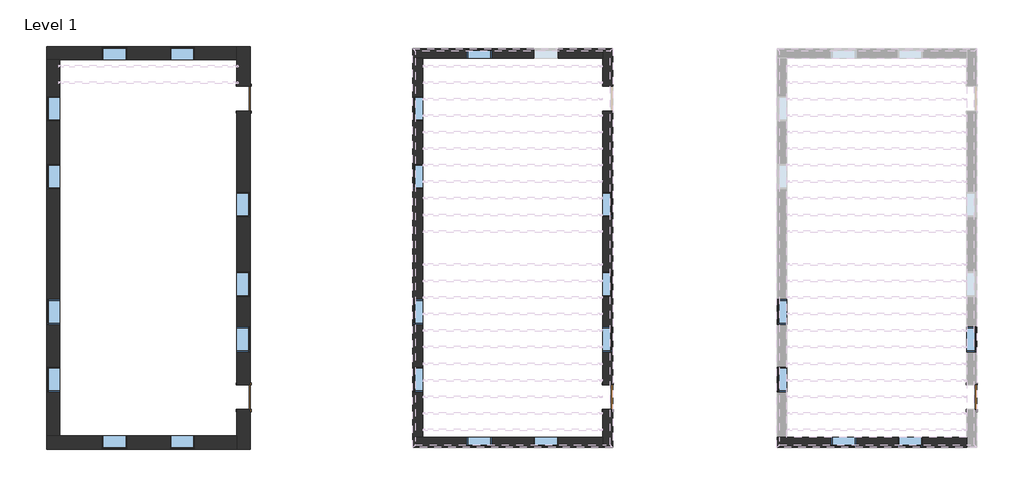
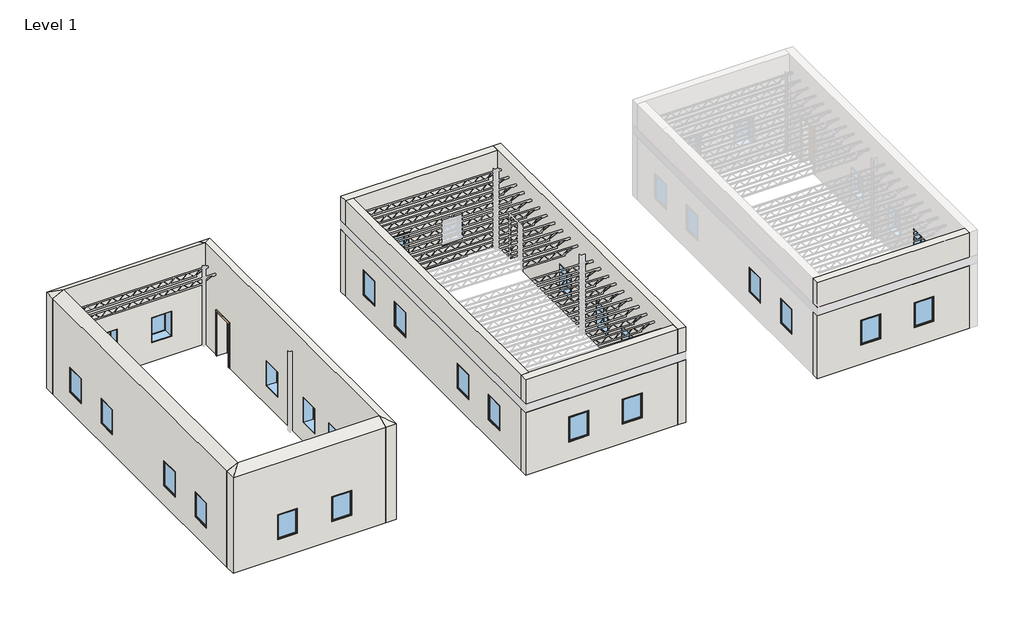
# One storey, part 1 of 3: 26 windows, 9 walls, 4 doors.
"""IFC4 building model written with IfcOpenShell, lengths in millimetres."""

from ifc_helpers import new_model, si_unit, origin, place, context, project, spatial, faceted_brep, transform, mapped, element, save
from components import door_647704b8, door_88aed75c, door_7d4dd929, window_a227ee85, window_0fe20cff, window_4cc3bb0a, window_eeedf783

model = new_model("IFC4")

# Units and contexts
model_context = context("Model", 3, world=origin())
ifc_project = project(units=[si_unit("LENGTHUNIT", "METRE", prefix="MILLI")], contexts=[model_context])

# Site, building, storey
site = spatial("IfcSite", under=ifc_project)
building = spatial("IfcBuilding", under=site)
storey = spatial("IfcBuildingStorey", under=building, Name="Level 1", Elevation=0.0)

# Doors
placement = place(None, origin())
door_shape = door_647704b8(model_context)
element("IfcDoor", 1, ObjectType="Single-Flush : 36\" x 84\"", at=placement, inside=storey, context=model_context, shape_type="MappedRepresentation", body=[
    mapped(door_shape, transform((18957.4805911, -2505.9398477, 0.0), x_axis=(0.0, -1.0, 0.0), y_axis=(1.0, 0.0, 0.0), z_axis=(0.0, 0.0, 1.0))),
])
element("IfcDoor", 2, ObjectType="Single-Flush : 36\" x 84\"", at=placement, inside=storey, context=model_context, shape_type="MappedRepresentation", body=[
    mapped(door_shape, transform((32368.6805911, -2505.9398477, 0.0), x_axis=(0.0, -1.0, 0.0), y_axis=(1.0, 0.0, 0.0), z_axis=(0.0, 0.0, 1.0))),
])
door_2_shape = door_88aed75c(model_context)
element("IfcDoor", 3, ObjectType="Single-Flush : 36\" x 84\"", at=placement, inside=storey, context=model_context, shape_type="MappedRepresentation", body=[
    mapped(door_2_shape, transform((5555.8055911, -2505.9398477, 0.0), x_axis=(0.0, -1.0, 0.0), y_axis=(1.0, 0.0, 0.0), z_axis=(0.0, 0.0, 1.0))),
])
door_3_shape = door_7d4dd929(model_context)
element("IfcDoor", 4, ObjectType="Single-Flush : 36\" x 84\"", at=placement, inside=storey, context=model_context, shape_type="MappedRepresentation", body=[
    mapped(door_3_shape, transform((5555.8055911, 8498.6101523, 0.0), x_axis=(0.0, 1.0, 0.0), y_axis=(-1.0, 0.0, 0.0), z_axis=(0.0, 0.0, 1.0))),
])

# Walls
element("IfcWall", 5, ObjectType="Exterior - Brick on CMU", at=placement, inside=storey, context=model_context, shape_type="Brep", body=[
    faceted_brep([(5803.4555911, 8955.8101523, 2133.6), (5803.4555911, 8955.8101523, 0.0), (5803.4555911, 10419.4851523, 0.0), (5803.4555911, 10419.4851523, 4650.0), (5803.4555911, -4426.8148477, 4650.0), (5803.4555911, -4426.8148477, 0.0), (5803.4555911, -2963.1398477, 0.0), (5803.4555911, -2963.1398477, 2133.6), (5803.4555911, -2048.7398477, 2133.6), (5803.4555911, -2048.7398477, 0.0), (5803.4555911, 8041.4101523, 0.0), (5803.4555911, 8041.4101523, 2133.6), (5803.4555911, 1202.4601523, 2133.6), (5803.4555911, 2116.8601523, 2133.6), (5803.4555911, 2116.8601523, 914.4), (5803.4555911, 1202.4601523, 914.4), (5803.4555911, -829.5398477, 2133.6), (5803.4555911, 84.8601523, 2133.6), (5803.4555911, 84.8601523, 914.4), (5803.4555911, -829.5398477, 914.4), (5803.4555911, 4139.3351523, 2133.6), (5803.4555911, 5053.7351523, 2133.6), (5803.4555911, 5053.7351523, 914.4), (5803.4555911, 4139.3351523, 914.4), (5308.1555911, 10419.4851523, 0.0), (5308.1555911, 9924.1851523, 0.0), (5308.1555911, 8955.8101523, 0.0), (5308.1555911, 8955.8101523, 2133.6), (5308.1555911, 8041.4101523, 2133.6), (5308.1555911, 8041.4101523, 0.0), (5308.1555911, -2048.7398477, 0.0), (5308.1555911, -2048.7398477, 2133.6), (5308.1555911, -2963.1398477, 2133.6), (5308.1555911, -2963.1398477, 0.0), (5308.1555911, -3931.5148477, 0.0), (5308.1555911, -4426.8148477, 0.0), (5308.1555911, -4426.8148477, 4650.0), (5308.1555911, -3931.5148477, 4897.65), (5308.1555911, 9924.1851523, 4897.65), (5308.1555911, 10419.4851523, 4650.0), (5308.1555911, 1202.4601523, 2133.6), (5308.1555911, 1202.4601523, 914.4), (5308.1555911, 2116.8601523, 914.4), (5308.1555911, 2116.8601523, 2133.6), (5308.1555911, -829.5398477, 2133.6), (5308.1555911, -829.5398477, 914.4), (5308.1555911, 84.8601523, 914.4), (5308.1555911, 84.8601523, 2133.6), (5308.1555911, 4139.3351523, 2133.6), (5308.1555911, 4139.3351523, 914.4), (5308.1555911, 5053.7351523, 914.4), (5308.1555911, 5053.7351523, 2133.6)], [[[0, 1, 2, 3, 4, 5, 6, 7, 8, 9, 10, 11], [12, 13, 14, 15], [16, 17, 18, 19], [20, 21, 22, 23]], [[24, 25, 26, 27, 28, 29, 30, 31, 32, 33, 34, 35, 36, 37, 38, 39], [40, 41, 42, 43], [44, 45, 46, 47], [48, 49, 50, 51]], [[35, 34, 33, 6, 5]], [[2, 1, 26, 25, 24]], [[10, 9, 30, 29]], [[3, 2, 24, 39]], [[5, 4, 36, 35]], [[4, 3, 38, 37]], [[3, 39, 38]], [[37, 36, 4]], [[7, 6, 33, 32]], [[8, 7, 32, 31]], [[9, 8, 31, 30]], [[27, 26, 1, 0]], [[28, 27, 0, 11]], [[29, 28, 11, 10]], [[41, 40, 12, 15]], [[42, 41, 15, 14]], [[43, 42, 14, 13]], [[40, 43, 13, 12]], [[45, 44, 16, 19]], [[46, 45, 19, 18]], [[47, 46, 18, 17]], [[44, 47, 17, 16]], [[49, 48, 20, 23]], [[50, 49, 23, 22]], [[51, 50, 22, 21]], [[48, 51, 21, 20]]]),
])
element("IfcWall", 6, ObjectType="Exterior - Brick on CMU", at=placement, inside=storey, context=model_context, shape_type="Brep", body=[
    faceted_brep([(5308.1555911, 10419.4851523, 0.0), (-1702.2444089, 10419.4851523, 0.0), (-1702.2444089, 10419.4851523, 4650.0), (5308.1555911, 10419.4851523, 4650.0), (2844.3555911, 10419.4851523, 2133.6), (2844.3555911, 10419.4851523, 914.4), (3758.7555911, 10419.4851523, 914.4), (3758.7555911, 10419.4851523, 2133.6), (342.4555911, 10419.4851523, 2133.6), (342.4555911, 10419.4851523, 914.4), (1256.8555911, 10419.4851523, 914.4), (1256.8555911, 10419.4851523, 2133.6), (5308.1555911, 9924.1851523, 0.0), (5308.1555911, 9924.1851523, 4897.65), (-1206.9444089, 9924.1851523, 4897.65), (-1702.2444089, 9924.1851523, 4650.0), (-1702.2444089, 9924.1851523, 0.0), (-1206.9444089, 9924.1851523, 0.0), (2844.3555911, 9924.1851523, 2133.6), (3758.7555911, 9924.1851523, 2133.6), (3758.7555911, 9924.1851523, 914.4), (2844.3555911, 9924.1851523, 914.4), (342.4555911, 9924.1851523, 2133.6), (1256.8555911, 9924.1851523, 2133.6), (1256.8555911, 9924.1851523, 914.4), (342.4555911, 9924.1851523, 914.4)], [[[0, 1, 2, 3], [4, 5, 6, 7], [8, 9, 10, 11]], [[12, 13, 14, 15, 16, 17], [18, 19, 20, 21], [22, 23, 24, 25]], [[1, 0, 12, 17, 16]], [[2, 1, 16, 15]], [[0, 3, 13, 12]], [[3, 2, 14, 13]], [[2, 15, 14]], [[5, 4, 18, 21]], [[6, 5, 21, 20]], [[7, 6, 20, 19]], [[4, 7, 19, 18]], [[9, 8, 22, 25]], [[10, 9, 25, 24]], [[11, 10, 24, 23]], [[8, 11, 23, 22]]]),
])
element("IfcWall", 7, ObjectType="Exterior - Brick on CMU", at=placement, inside=storey, context=model_context, shape_type="Brep", body=[
    faceted_brep([(5308.1555911, -3931.5148477, 0.0), (-1206.9444089, -3931.5148477, 0.0), (-1702.2444089, -3931.5148477, 0.0), (-1702.2444089, -3931.5148477, 4650.0), (-1206.9444089, -3931.5148477, 4897.65), (5308.1555911, -3931.5148477, 4897.65), (2844.3555911, -3931.5148477, 2133.6), (2844.3555911, -3931.5148477, 914.4), (3758.7555911, -3931.5148477, 914.4), (3758.7555911, -3931.5148477, 2133.6), (342.4555911, -3931.5148477, 2133.6), (342.4555911, -3931.5148477, 914.4), (1256.8555911, -3931.5148477, 914.4), (1256.8555911, -3931.5148477, 2133.6), (5308.1555911, -4426.8148477, 0.0), (5308.1555911, -4426.8148477, 4650.0), (-1702.2444089, -4426.8148477, 4650.0), (-1702.2444089, -4426.8148477, 0.0), (2844.3555911, -4426.8148477, 2133.6), (3758.7555911, -4426.8148477, 2133.6), (3758.7555911, -4426.8148477, 914.4), (2844.3555911, -4426.8148477, 914.4), (342.4555911, -4426.8148477, 2133.6), (1256.8555911, -4426.8148477, 2133.6), (1256.8555911, -4426.8148477, 914.4), (342.4555911, -4426.8148477, 914.4)], [[[0, 1, 2, 3, 4, 5], [6, 7, 8, 9], [10, 11, 12, 13]], [[14, 15, 16, 17], [18, 19, 20, 21], [22, 23, 24, 25]], [[2, 1, 0, 14, 17]], [[3, 2, 17, 16]], [[0, 5, 15, 14]], [[5, 4, 16, 15]], [[4, 3, 16]], [[7, 6, 18, 21]], [[8, 7, 21, 20]], [[9, 8, 20, 19]], [[6, 9, 19, 18]], [[11, 10, 22, 25]], [[12, 11, 25, 24]], [[13, 12, 24, 23]], [[10, 13, 23, 22]]]),
])
element("IfcWall", 8, ObjectType="Exterior - Brick on CMU", at=placement, inside=storey, context=model_context, shape_type="Brep", body=[
    faceted_brep([(-1206.9444089, -3931.5148477, 0.0), (-1206.9444089, 9924.1851523, 0.0), (-1206.9444089, 9924.1851523, 4897.65), (-1206.9444089, -3931.5148477, 4897.65), (-1206.9444089, 1095.5684857, 2133.6), (-1206.9444089, 1095.5684857, 914.4), (-1206.9444089, 181.1684857, 914.4), (-1206.9444089, 181.1684857, 2133.6), (-1206.9444089, 6084.551819, 2133.6), (-1206.9444089, 6084.551819, 914.4), (-1206.9444089, 5170.151819, 914.4), (-1206.9444089, 5170.151819, 2133.6), (-1206.9444089, 8579.0434857, 2133.6), (-1206.9444089, 8579.0434857, 914.4), (-1206.9444089, 7664.6434857, 914.4), (-1206.9444089, 7664.6434857, 2133.6), (-1206.9444089, -1398.923181, 2133.6), (-1206.9444089, -1398.923181, 914.4), (-1206.9444089, -2313.323181, 914.4), (-1206.9444089, -2313.323181, 2133.6), (-1702.2444089, -3931.5148477, 0.0), (-1702.2444089, -3931.5148477, 4650.0), (-1702.2444089, 9924.1851523, 4650.0), (-1702.2444089, 9924.1851523, 0.0), (-1702.2444089, 1095.5684857, 2133.6), (-1702.2444089, 181.1684857, 2133.6), (-1702.2444089, 181.1684857, 914.4), (-1702.2444089, 1095.5684857, 914.4), (-1702.2444089, 6084.551819, 2133.6), (-1702.2444089, 5170.151819, 2133.6), (-1702.2444089, 5170.151819, 914.4), (-1702.2444089, 6084.551819, 914.4), (-1702.2444089, 8579.0434857, 2133.6), (-1702.2444089, 7664.6434857, 2133.6), (-1702.2444089, 7664.6434857, 914.4), (-1702.2444089, 8579.0434857, 914.4), (-1702.2444089, -1398.923181, 2133.6), (-1702.2444089, -2313.323181, 2133.6), (-1702.2444089, -2313.323181, 914.4), (-1702.2444089, -1398.923181, 914.4)], [[[0, 1, 2, 3], [4, 5, 6, 7], [8, 9, 10, 11], [12, 13, 14, 15], [16, 17, 18, 19]], [[20, 21, 22, 23], [24, 25, 26, 27], [28, 29, 30, 31], [32, 33, 34, 35], [36, 37, 38, 39]], [[1, 0, 20, 23]], [[2, 1, 23, 22]], [[0, 3, 21, 20]], [[3, 2, 22, 21]], [[5, 4, 24, 27]], [[6, 5, 27, 26]], [[7, 6, 26, 25]], [[4, 7, 25, 24]], [[9, 8, 28, 31]], [[10, 9, 31, 30]], [[11, 10, 30, 29]], [[8, 11, 29, 28]], [[13, 12, 32, 35]], [[14, 13, 35, 34]], [[15, 14, 34, 33]], [[12, 15, 33, 32]], [[17, 16, 36, 39]], [[18, 17, 39, 38]], [[19, 18, 38, 37]], [[16, 19, 37, 36]]]),
])
element("IfcWall", 9, ObjectType="LDC Exterior - Brick on CMU", at=placement, inside=storey, context=model_context, shape_type="Brep", body=[
    faceted_brep([(19138.4555911, 10343.2851523, 4650.0), (19138.4555911, -4350.6148477, 4650.0), (19138.4555911, -4350.6148477, 3454.4), (19138.4555911, 10343.2851523, 3454.4), (19138.4555911, -2963.1398477, 0.0), (19138.4555911, -2963.1398477, 2133.6), (19138.4555911, -2048.7398477, 2133.6), (19138.4555911, -2048.7398477, 0.0), (19138.4555911, 8041.4101523, 0.0), (19138.4555911, 8041.4101523, 2133.6), (19138.4555911, 8955.8101523, 2133.6), (19138.4555911, 8955.8101523, 0.0), (19138.4555911, 10343.2851523, 0.0), (19138.4555911, 10343.2851523, 3048.0), (19138.4555911, -4350.6148477, 3048.0), (19138.4555911, -4350.6148477, 0.0), (19138.4555911, 1202.4601523, 914.4), (19138.4555911, 1202.4601523, 2133.6), (19138.4555911, 2116.8601523, 2133.6), (19138.4555911, 2116.8601523, 914.4), (19138.4555911, -829.5398477, 914.4), (19138.4555911, -829.5398477, 2133.6), (19138.4555911, 84.8601523, 2133.6), (19138.4555911, 84.8601523, 914.4), (19138.4555911, 4139.3351523, 914.4), (19138.4555911, 4139.3351523, 2133.6), (19138.4555911, 5053.7351523, 2133.6), (19138.4555911, 5053.7351523, 914.4), (18776.5055911, -4350.6148477, 4650.0), (18776.5055911, -3988.6648477, 4650.0), (18776.5055911, 9981.3351523, 4650.0), (18776.5055911, 10343.2851523, 4650.0), (18776.5055911, 10343.2851523, 3454.4), (18776.5055911, 10254.3851523, 3454.4), (18776.5055911, 10254.3851523, 3048.0), (18776.5055911, 10343.2851523, 3048.0), (18776.5055911, 10343.2851523, 0.0), (18776.5055911, 9981.3351523, 0.0), (18776.5055911, 8955.8101523, 0.0), (18776.5055911, 8955.8101523, 2133.6), (18776.5055911, 8041.4101523, 2133.6), (18776.5055911, 8041.4101523, 0.0), (18776.5055911, -2048.7398477, 0.0), (18776.5055911, -2048.7398477, 2133.6), (18776.5055911, -2963.1398477, 2133.6), (18776.5055911, -2963.1398477, 0.0), (18776.5055911, -3988.6648477, 0.0), (18776.5055911, -4350.6148477, 0.0), (18776.5055911, -4350.6148477, 3048.0), (18776.5055911, -4261.7148477, 3048.0), (18776.5055911, -4261.7148477, 3454.4), (18776.5055911, -4350.6148477, 3454.4), (18776.5055911, 1202.4601523, 2133.6), (18776.5055911, 1202.4601523, 914.4), (18776.5055911, 2116.8601523, 914.4), (18776.5055911, 2116.8601523, 2133.6), (18776.5055911, -829.5398477, 2133.6), (18776.5055911, -829.5398477, 914.4), (18776.5055911, 84.8601523, 914.4), (18776.5055911, 84.8601523, 2133.6), (18776.5055911, 4139.3351523, 2133.6), (18776.5055911, 4139.3351523, 914.4), (18776.5055911, 5053.7351523, 914.4), (18776.5055911, 5053.7351523, 2133.6), (19049.5555911, -4261.7148477, 3454.4), (19049.5555911, 10254.3851523, 3454.4), (19049.5555911, -4261.7148477, 3048.0), (19049.5555911, 10254.3851523, 3048.0)], [[[0, 1, 2, 3]], [[4, 5, 6, 7, 8, 9, 10, 11, 12, 13, 14, 15], [16, 17, 18, 19], [20, 21, 22, 23], [24, 25, 26, 27]], [[28, 29, 30, 31, 32, 33, 34, 35, 36, 37, 38, 39, 40, 41, 42, 43, 44, 45, 46, 47, 48, 49, 50, 51], [52, 53, 54, 55], [56, 57, 58, 59], [60, 61, 62, 63]], [[36, 12, 11, 38, 37]], [[15, 47, 46, 45, 4]], [[7, 42, 41, 8]], [[1, 0, 31, 30, 29, 28]], [[12, 36, 35, 13]], [[31, 0, 3, 32]], [[1, 28, 51, 2]], [[47, 15, 14, 48]], [[5, 4, 45, 44]], [[6, 5, 44, 43]], [[7, 6, 43, 42]], [[39, 38, 11, 10]], [[40, 39, 10, 9]], [[41, 40, 9, 8]], [[53, 52, 17, 16]], [[54, 53, 16, 19]], [[55, 54, 19, 18]], [[52, 55, 18, 17]], [[57, 56, 21, 20]], [[58, 57, 20, 23]], [[59, 58, 23, 22]], [[56, 59, 22, 21]], [[61, 60, 25, 24]], [[62, 61, 24, 27]], [[63, 62, 27, 26]], [[60, 63, 26, 25]], [[64, 65, 33, 32, 3, 2, 51, 50]], [[66, 64, 50, 49]], [[67, 66, 49, 48, 14, 13, 35, 34]], [[65, 64, 66, 67]], [[65, 67, 34, 33]]]),
])
element("IfcWall", 10, ObjectType="LDC Exterior - Brick on CMU", at=placement, inside=storey, context=model_context, shape_type="Brep", body=[
    faceted_brep([(18776.5055911, 10343.2851523, 0.0), (11785.1555911, 10343.2851523, 0.0), (11785.1555911, 10343.2851523, 3048.0), (18776.5055911, 10343.2851523, 3048.0), (16230.1555911, 10343.2851523, 2133.6), (16230.1555911, 10343.2851523, 914.4), (17144.5555911, 10343.2851523, 914.4), (17144.5555911, 10343.2851523, 2133.6), (13779.0555911, 10343.2851523, 2133.6), (13779.0555911, 10343.2851523, 914.4), (14693.4555911, 10343.2851523, 914.4), (14693.4555911, 10343.2851523, 2133.6), (11785.1555911, 10343.2851523, 4650.0), (18776.5055911, 10343.2851523, 4650.0), (18776.5055911, 10343.2851523, 3454.4), (11785.1555911, 10343.2851523, 3454.4), (11785.1555911, 9981.3351523, 0.0), (12147.1055911, 9981.3351523, 0.0), (18776.5055911, 9981.3351523, 0.0), (18776.5055911, 9981.3351523, 4650.0), (12147.1055911, 9981.3351523, 4650.0), (11785.1555911, 9981.3351523, 4650.0), (11785.1555911, 9981.3351523, 3454.4), (11874.0555911, 9981.3351523, 3454.4), (11874.0555911, 9981.3351523, 3048.0), (11785.1555911, 9981.3351523, 3048.0), (16230.1555911, 9981.3351523, 914.4), (16230.1555911, 9981.3351523, 2133.6), (17144.5555911, 9981.3351523, 2133.6), (17144.5555911, 9981.3351523, 914.4), (13779.0555911, 9981.3351523, 914.4), (13779.0555911, 9981.3351523, 2133.6), (14693.4555911, 9981.3351523, 2133.6), (14693.4555911, 9981.3351523, 914.4), (18776.5055911, 10254.3851523, 3048.0), (18776.5055911, 10254.3851523, 3454.4), (11874.0555911, 10254.3851523, 3454.4), (11874.0555911, 10254.3851523, 3048.0)], [[[0, 1, 2, 3], [4, 5, 6, 7], [8, 9, 10, 11]], [[12, 13, 14, 15]], [[16, 17, 18, 19, 20, 21, 22, 23, 24, 25], [26, 27, 28, 29], [30, 31, 32, 33]], [[1, 0, 18, 17, 16]], [[13, 12, 21, 20, 19]], [[1, 16, 25, 2]], [[21, 12, 15, 22]], [[13, 19, 18, 0, 3, 34, 35, 14]], [[5, 4, 27, 26]], [[6, 5, 26, 29]], [[7, 6, 29, 28]], [[4, 7, 28, 27]], [[9, 8, 31, 30]], [[10, 9, 30, 33]], [[11, 10, 33, 32]], [[8, 11, 32, 31]], [[35, 36, 23, 22, 15, 14]], [[24, 37, 34, 3, 2, 25]], [[37, 36, 35, 34]], [[36, 37, 24, 23]]]),
])
element("IfcWall", 11, ObjectType="LDC Exterior - Brick on CMU", at=placement, inside=storey, context=model_context, shape_type="Brep", body=[
    faceted_brep([(18776.5055911, -3988.6648477, 0.0), (12147.1055911, -3988.6648477, 0.0), (11785.1555911, -3988.6648477, 0.0), (11785.1555911, -3988.6648477, 3048.0), (11874.0555911, -3988.6648477, 3048.0), (11874.0555911, -3988.6648477, 3454.4), (11785.1555911, -3988.6648477, 3454.4), (11785.1555911, -3988.6648477, 4650.0), (12147.1055911, -3988.6648477, 4650.0), (18776.5055911, -3988.6648477, 4650.0), (16230.1555911, -3988.6648477, 2133.6), (16230.1555911, -3988.6648477, 914.4), (17144.5555911, -3988.6648477, 914.4), (17144.5555911, -3988.6648477, 2133.6), (13779.0555911, -3988.6648477, 2133.6), (13779.0555911, -3988.6648477, 914.4), (14693.4555911, -3988.6648477, 914.4), (14693.4555911, -3988.6648477, 2133.6), (11785.1555911, -4350.6148477, 0.0), (18776.5055911, -4350.6148477, 0.0), (18776.5055911, -4350.6148477, 3048.0), (11785.1555911, -4350.6148477, 3048.0), (16230.1555911, -4350.6148477, 914.4), (16230.1555911, -4350.6148477, 2133.6), (17144.5555911, -4350.6148477, 2133.6), (17144.5555911, -4350.6148477, 914.4), (13779.0555911, -4350.6148477, 914.4), (13779.0555911, -4350.6148477, 2133.6), (14693.4555911, -4350.6148477, 2133.6), (14693.4555911, -4350.6148477, 914.4), (18776.5055911, -4350.6148477, 4650.0), (11785.1555911, -4350.6148477, 4650.0), (11785.1555911, -4350.6148477, 3454.4), (18776.5055911, -4350.6148477, 3454.4), (18776.5055911, -4261.7148477, 3454.4), (18776.5055911, -4261.7148477, 3048.0), (11874.0555911, -4261.7148477, 3048.0), (11874.0555911, -4261.7148477, 3454.4)], [[[0, 1, 2, 3, 4, 5, 6, 7, 8, 9], [10, 11, 12, 13], [14, 15, 16, 17]], [[18, 19, 20, 21], [22, 23, 24, 25], [26, 27, 28, 29]], [[30, 31, 32, 33]], [[2, 1, 0, 19, 18]], [[9, 8, 7, 31, 30]], [[2, 18, 21, 3]], [[31, 7, 6, 32]], [[0, 9, 30, 33, 34, 35, 20, 19]], [[11, 10, 23, 22]], [[12, 11, 22, 25]], [[13, 12, 25, 24]], [[10, 13, 24, 23]], [[15, 14, 27, 26]], [[16, 15, 26, 29]], [[17, 16, 29, 28]], [[14, 17, 28, 27]], [[35, 36, 4, 3, 21, 20]], [[5, 37, 34, 33, 32, 6]], [[37, 36, 35, 34]], [[36, 37, 5, 4]]]),
])
element("IfcWall", 12, ObjectType="LDC Exterior - Brick on CMU", at=placement, inside=storey, context=model_context, shape_type="Brep", body=[
    faceted_brep([(12147.1055911, -3988.6648477, 0.0), (12147.1055911, 9981.3351523, 0.0), (12147.1055911, 9981.3351523, 4650.0), (12147.1055911, -3988.6648477, 4650.0), (12147.1055911, 1095.5684857, 2133.6), (12147.1055911, 1095.5684857, 914.4), (12147.1055911, 181.1684857, 914.4), (12147.1055911, 181.1684857, 2133.6), (12147.1055911, 6084.551819, 2133.6), (12147.1055911, 6084.551819, 914.4), (12147.1055911, 5170.151819, 914.4), (12147.1055911, 5170.151819, 2133.6), (12147.1055911, 8579.0434857, 2133.6), (12147.1055911, 8579.0434857, 914.4), (12147.1055911, 7664.6434857, 914.4), (12147.1055911, 7664.6434857, 2133.6), (12147.1055911, -1398.923181, 2133.6), (12147.1055911, -1398.923181, 914.4), (12147.1055911, -2313.323181, 914.4), (12147.1055911, -2313.323181, 2133.6), (11785.1555911, 9981.3351523, 0.0), (11785.1555911, -3988.6648477, 0.0), (11785.1555911, -3988.6648477, 3048.0), (11785.1555911, 9981.3351523, 3048.0), (11785.1555911, 1095.5684857, 914.4), (11785.1555911, 1095.5684857, 2133.6), (11785.1555911, 181.1684857, 2133.6), (11785.1555911, 181.1684857, 914.4), (11785.1555911, 6084.551819, 914.4), (11785.1555911, 6084.551819, 2133.6), (11785.1555911, 5170.151819, 2133.6), (11785.1555911, 5170.151819, 914.4), (11785.1555911, 8579.0434857, 914.4), (11785.1555911, 8579.0434857, 2133.6), (11785.1555911, 7664.6434857, 2133.6), (11785.1555911, 7664.6434857, 914.4), (11785.1555911, -1398.923181, 914.4), (11785.1555911, -1398.923181, 2133.6), (11785.1555911, -2313.323181, 2133.6), (11785.1555911, -2313.323181, 914.4), (11785.1555911, -3988.6648477, 4650.0), (11785.1555911, 9981.3351523, 4650.0), (11785.1555911, 9981.3351523, 3454.4), (11785.1555911, -3988.6648477, 3454.4), (11874.0555911, 9981.3351523, 3048.0), (11874.0555911, 9981.3351523, 3454.4), (11874.0555911, -3988.6648477, 3454.4), (11874.0555911, -3988.6648477, 3048.0)], [[[0, 1, 2, 3], [4, 5, 6, 7], [8, 9, 10, 11], [12, 13, 14, 15], [16, 17, 18, 19]], [[20, 21, 22, 23], [24, 25, 26, 27], [28, 29, 30, 31], [32, 33, 34, 35], [36, 37, 38, 39]], [[40, 41, 42, 43]], [[1, 0, 21, 20]], [[3, 2, 41, 40]], [[2, 1, 20, 23, 44, 45, 42, 41]], [[0, 3, 40, 43, 46, 47, 22, 21]], [[5, 4, 25, 24]], [[6, 5, 24, 27]], [[7, 6, 27, 26]], [[4, 7, 26, 25]], [[9, 8, 29, 28]], [[10, 9, 28, 31]], [[11, 10, 31, 30]], [[8, 11, 30, 29]], [[13, 12, 33, 32]], [[14, 13, 32, 35]], [[15, 14, 35, 34]], [[12, 15, 34, 33]], [[17, 16, 37, 36]], [[18, 17, 36, 39]], [[19, 18, 39, 38]], [[16, 19, 38, 37]], [[47, 44, 23, 22]], [[45, 46, 43, 42]], [[46, 45, 44, 47]]]),
])
element("IfcWall", 13, ObjectType="LDC Exterior - Brick on CMU", at=placement, inside=storey, context=model_context, shape_type="Brep", body=[
    faceted_brep([(32187.7055911, -3988.6648477, 0.0), (25558.3055911, -3988.6648477, 0.0), (25196.3555911, -3988.6648477, 0.0), (25196.3555911, -3988.6648477, 3048.0), (25285.2555911, -3988.6648477, 3048.0), (25285.2555911, -3988.6648477, 3454.4), (25196.3555911, -3988.6648477, 3454.4), (25196.3555911, -3988.6648477, 4650.0), (25558.3055911, -3988.6648477, 4650.0), (32187.7055911, -3988.6648477, 4650.0), (29641.3555911, -3988.6648477, 2133.6), (29641.3555911, -3988.6648477, 914.4), (30555.7555911, -3988.6648477, 914.4), (30555.7555911, -3988.6648477, 2133.6), (27190.2555911, -3988.6648477, 2133.6), (27190.2555911, -3988.6648477, 914.4), (28104.6555911, -3988.6648477, 914.4), (28104.6555911, -3988.6648477, 2133.6), (25196.3555911, -4350.6148477, 0.0), (32187.7055911, -4350.6148477, 0.0), (32187.7055911, -4350.6148477, 3048.0), (25196.3555911, -4350.6148477, 3048.0), (29641.3555911, -4350.6148477, 914.4), (29641.3555911, -4350.6148477, 2133.6), (30555.7555911, -4350.6148477, 2133.6), (30555.7555911, -4350.6148477, 914.4), (27190.2555911, -4350.6148477, 914.4), (27190.2555911, -4350.6148477, 2133.6), (28104.6555911, -4350.6148477, 2133.6), (28104.6555911, -4350.6148477, 914.4), (32187.7055911, -4350.6148477, 4650.0), (25196.3555911, -4350.6148477, 4650.0), (25196.3555911, -4350.6148477, 3454.4), (32187.7055911, -4350.6148477, 3454.4), (32187.7055911, -4261.7148477, 3454.4), (32187.7055911, -4261.7148477, 3048.0), (25285.2555911, -4261.7148477, 3048.0), (25285.2555911, -4261.7148477, 3454.4)], [[[0, 1, 2, 3, 4, 5, 6, 7, 8, 9], [10, 11, 12, 13], [14, 15, 16, 17]], [[18, 19, 20, 21], [22, 23, 24, 25], [26, 27, 28, 29]], [[30, 31, 32, 33]], [[2, 1, 0, 19, 18]], [[9, 8, 7, 31, 30]], [[2, 18, 21, 3]], [[31, 7, 6, 32]], [[0, 9, 30, 33, 34, 35, 20, 19]], [[11, 10, 23, 22]], [[12, 11, 22, 25]], [[13, 12, 25, 24]], [[10, 13, 24, 23]], [[15, 14, 27, 26]], [[16, 15, 26, 29]], [[17, 16, 29, 28]], [[14, 17, 28, 27]], [[35, 36, 4, 3, 21, 20]], [[5, 37, 34, 33, 32, 6]], [[37, 36, 35, 34]], [[36, 37, 5, 4]]]),
])

# Windows
window_shape = window_a227ee85(model_context)
element("IfcWindow", 14, ObjectType="Fixed : 36\" x 48\"", at=placement, inside=storey, context=model_context, shape_type="MappedRepresentation", body=[
    mapped(window_shape, transform((14198.1555911, -4169.6398477, 0.0), x_axis=(-1.0, 0.0, 0.0), y_axis=(0.0, -1.0, 0.0), z_axis=(0.0, 0.0, 1.0))),
])
element("IfcWindow", 15, ObjectType="Fixed : 36\" x 48\"", at=placement, inside=storey, context=model_context, shape_type="MappedRepresentation", body=[
    mapped(window_shape, transform((16649.2555911, -4169.6398477, 0.0), x_axis=(-1.0, 0.0, 0.0), y_axis=(0.0, -1.0, 0.0), z_axis=(0.0, 0.0, 1.0))),
])
element("IfcWindow", 16, ObjectType="Fixed : 36\" x 48\"", at=placement, inside=storey, context=model_context, shape_type="MappedRepresentation", body=[
    mapped(window_shape, transform((11966.1305911, -1818.023181, 0.0), x_axis=(0.0, 1.0, 0.0), y_axis=(-1.0, 0.0, 0.0), z_axis=(0.0, 0.0, 1.0))),
])
element("IfcWindow", 17, ObjectType="Fixed : 36\" x 48\"", at=placement, inside=storey, context=model_context, shape_type="MappedRepresentation", body=[
    mapped(window_shape, transform((11966.1305911, 8159.9434857, 0.0), x_axis=(0.0, 1.0, 0.0), y_axis=(-1.0, 0.0, 0.0), z_axis=(0.0, 0.0, 1.0))),
])
element("IfcWindow", 18, ObjectType="Fixed : 36\" x 48\"", at=placement, inside=storey, context=model_context, shape_type="MappedRepresentation", body=[
    mapped(window_shape, transform((11966.1305911, 676.4684857, 0.0), x_axis=(0.0, 1.0, 0.0), y_axis=(-1.0, 0.0, 0.0), z_axis=(0.0, 0.0, 1.0))),
])
element("IfcWindow", 19, ObjectType="Fixed : 36\" x 48\"", at=placement, inside=storey, context=model_context, shape_type="MappedRepresentation", body=[
    mapped(window_shape, transform((11966.1305911, 5665.451819, 0.0), x_axis=(0.0, 1.0, 0.0), y_axis=(-1.0, 0.0, 0.0), z_axis=(0.0, 0.0, 1.0))),
])
element("IfcWindow", 20, ObjectType="Fixed : 36\" x 48\"", at=placement, inside=storey, context=model_context, shape_type="MappedRepresentation", body=[
    mapped(window_shape, transform((18957.4805911, 4558.4351523, 0.0), x_axis=(0.0, -1.0, 0.0), y_axis=(1.0, 0.0, 0.0), z_axis=(0.0, 0.0, 1.0))),
])
element("IfcWindow", 21, ObjectType="Fixed : 36\" x 48\"", at=placement, inside=storey, context=model_context, shape_type="MappedRepresentation", body=[
    mapped(window_shape, transform((18957.4805911, -410.4398477, 0.0), x_axis=(0.0, -1.0, 0.0), y_axis=(1.0, 0.0, 0.0), z_axis=(0.0, 0.0, 1.0))),
])
element("IfcWindow", 22, ObjectType="Fixed : 36\" x 48\"", at=placement, inside=storey, context=model_context, shape_type="MappedRepresentation", body=[
    mapped(window_shape, transform((18957.4805911, 1621.5601523, 0.0), x_axis=(0.0, -1.0, 0.0), y_axis=(1.0, 0.0, 0.0), z_axis=(0.0, 0.0, 1.0))),
])
element("IfcWindow", 23, ObjectType="Fixed : 36\" x 48\"", at=placement, inside=storey, context=model_context, shape_type="MappedRepresentation", body=[
    mapped(window_shape, transform((27609.3555911, -4169.6398477, 0.0), x_axis=(-1.0, 0.0, 0.0), y_axis=(0.0, -1.0, 0.0), z_axis=(0.0, 0.0, 1.0))),
])
element("IfcWindow", 24, ObjectType="Fixed : 36\" x 48\"", at=placement, inside=storey, context=model_context, shape_type="MappedRepresentation", body=[
    mapped(window_shape, transform((30060.4555911, -4169.6398477, 0.0), x_axis=(-1.0, 0.0, 0.0), y_axis=(0.0, -1.0, 0.0), z_axis=(0.0, 0.0, 1.0))),
])
element("IfcWindow", 25, ObjectType="Fixed : 36\" x 48\"", at=placement, inside=storey, context=model_context, shape_type="MappedRepresentation", body=[
    mapped(window_shape, transform((25377.3305911, -1818.023181, 0.0), x_axis=(0.0, 1.0, 0.0), y_axis=(-1.0, 0.0, 0.0), z_axis=(0.0, 0.0, 1.0))),
])
element("IfcWindow", 26, ObjectType="Fixed : 36\" x 48\"", at=placement, inside=storey, context=model_context, shape_type="MappedRepresentation", body=[
    mapped(window_shape, transform((25377.3305911, 676.4684857, 0.0), x_axis=(0.0, 1.0, 0.0), y_axis=(-1.0, 0.0, 0.0), z_axis=(0.0, 0.0, 1.0))),
])
element("IfcWindow", 27, ObjectType="Fixed : 36\" x 48\"", at=placement, inside=storey, context=model_context, shape_type="MappedRepresentation", body=[
    mapped(window_shape, transform((32368.6805911, -410.4398477, 0.0), x_axis=(0.0, -1.0, 0.0), y_axis=(1.0, 0.0, 0.0), z_axis=(0.0, 0.0, 1.0))),
])
window_2_shape = window_0fe20cff(model_context)
element("IfcWindow", 28, ObjectType="Fixed : 36\" x 48\"", at=placement, inside=storey, context=model_context, shape_type="MappedRepresentation", body=[
    mapped(window_2_shape, transform((14198.1555911, 10162.3101523, 0.0), x_axis=(-1.0, 0.0, 0.0), y_axis=(0.0, -1.0, 0.0), z_axis=(0.0, 0.0, 1.0))),
])
window_3_shape = window_4cc3bb0a(model_context)
element("IfcWindow", 29, ObjectType="Fixed : 36\" x 48\"", at=placement, inside=storey, context=model_context, shape_type="MappedRepresentation", body=[
    mapped(window_3_shape, transform((761.5555911, -4179.1648477, 0.0), x_axis=(-1.0, 0.0, 0.0), y_axis=(0.0, -1.0, 0.0), z_axis=(0.0, 0.0, 1.0))),
])
element("IfcWindow", 30, ObjectType="Fixed : 36\" x 48\"", at=placement, inside=storey, context=model_context, shape_type="MappedRepresentation", body=[
    mapped(window_3_shape, transform((3263.4555911, -4179.1648477, 0.0), x_axis=(-1.0, 0.0, 0.0), y_axis=(0.0, -1.0, 0.0), z_axis=(0.0, 0.0, 1.0))),
])
element("IfcWindow", 31, ObjectType="Fixed : 36\" x 48\"", at=placement, inside=storey, context=model_context, shape_type="MappedRepresentation", body=[
    mapped(window_3_shape, transform((-1454.5944089, -1818.023181, 0.0), x_axis=(0.0, 1.0, 0.0), y_axis=(-1.0, 0.0, 0.0), z_axis=(0.0, 0.0, 1.0))),
])
element("IfcWindow", 32, ObjectType="Fixed : 36\" x 48\"", at=placement, inside=storey, context=model_context, shape_type="MappedRepresentation", body=[
    mapped(window_3_shape, transform((-1454.5944089, 8159.9434857, 0.0), x_axis=(0.0, 1.0, 0.0), y_axis=(-1.0, 0.0, 0.0), z_axis=(0.0, 0.0, 1.0))),
])
element("IfcWindow", 33, ObjectType="Fixed : 36\" x 48\"", at=placement, inside=storey, context=model_context, shape_type="MappedRepresentation", body=[
    mapped(window_3_shape, transform((-1454.5944089, 676.4684857, 0.0), x_axis=(0.0, 1.0, 0.0), y_axis=(-1.0, 0.0, 0.0), z_axis=(0.0, 0.0, 1.0))),
])
element("IfcWindow", 34, ObjectType="Fixed : 36\" x 48\"", at=placement, inside=storey, context=model_context, shape_type="MappedRepresentation", body=[
    mapped(window_3_shape, transform((-1454.5944089, 5665.451819, 0.0), x_axis=(0.0, 1.0, 0.0), y_axis=(-1.0, 0.0, 0.0), z_axis=(0.0, 0.0, 1.0))),
])
element("IfcWindow", 35, ObjectType="Fixed : 36\" x 48\"", at=placement, inside=storey, context=model_context, shape_type="MappedRepresentation", body=[
    mapped(window_3_shape, transform((5555.8055911, 4558.4351523, 0.0), x_axis=(0.0, -1.0, 0.0), y_axis=(1.0, 0.0, 0.0), z_axis=(0.0, 0.0, 1.0))),
])
element("IfcWindow", 36, ObjectType="Fixed : 36\" x 48\"", at=placement, inside=storey, context=model_context, shape_type="MappedRepresentation", body=[
    mapped(window_3_shape, transform((5555.8055911, -410.4398477, 0.0), x_axis=(0.0, -1.0, 0.0), y_axis=(1.0, 0.0, 0.0), z_axis=(0.0, 0.0, 1.0))),
])
element("IfcWindow", 37, ObjectType="Fixed : 36\" x 48\"", at=placement, inside=storey, context=model_context, shape_type="MappedRepresentation", body=[
    mapped(window_3_shape, transform((5555.8055911, 1621.5601523, 0.0), x_axis=(0.0, -1.0, 0.0), y_axis=(1.0, 0.0, 0.0), z_axis=(0.0, 0.0, 1.0))),
])
window_4_shape = window_eeedf783(model_context)
element("IfcWindow", 38, ObjectType="Fixed : 36\" x 48\"", at=placement, inside=storey, context=model_context, shape_type="MappedRepresentation", body=[
    mapped(window_4_shape, transform((761.5555911, 10171.8351523, 0.0), x_axis=(-1.0, 0.0, 0.0), y_axis=(0.0, -1.0, 0.0), z_axis=(0.0, 0.0, 1.0))),
])
element("IfcWindow", 39, ObjectType="Fixed : 36\" x 48\"", at=placement, inside=storey, context=model_context, shape_type="MappedRepresentation", body=[
    mapped(window_4_shape, transform((3263.4555911, 10171.8351523, 0.0), x_axis=(-1.0, 0.0, 0.0), y_axis=(0.0, -1.0, 0.0), z_axis=(0.0, 0.0, 1.0))),
])

save(model, "model.ifc")
